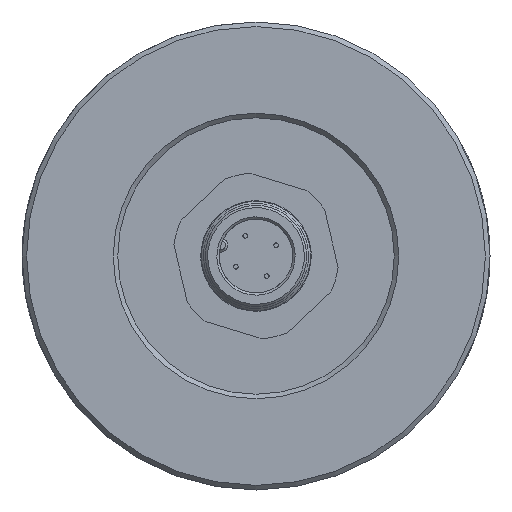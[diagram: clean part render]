
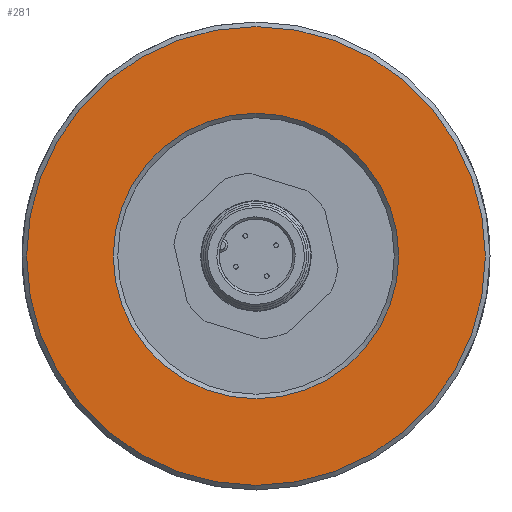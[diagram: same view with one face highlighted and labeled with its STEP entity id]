
A CAD part, left-side view. The second image highlights one B-rep face of the part: STEP entity #281.
In plain terms, the highlighted planar face has unit normal (-1, 0, 0).
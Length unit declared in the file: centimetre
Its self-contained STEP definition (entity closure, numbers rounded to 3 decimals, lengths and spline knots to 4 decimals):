
#190=CARTESIAN_POINT('',(-5.08,0.,1.55));
#191=VERTEX_POINT('',#190);
#200=CARTESIAN_POINT('',(-5.08,0.,0.));
#201=DIRECTION('',(-1.,-0.,-0.));
#202=DIRECTION('',(0.,0.,-1.));
#203=AXIS2_PLACEMENT_3D('',#200,#201,#202);
#204=CIRCLE('',#203,1.55);
#205=EDGE_CURVE('',#191,#191,#204,.T.);
#262=CARTESIAN_POINT('',(-5.08,0.,0.));
#263=DIRECTION('',(1.,0.,0.));
#264=DIRECTION('',(0.,0.,-1.));
#265=AXIS2_PLACEMENT_3D('',#262,#263,#264);
#266=PLANE('',#265);
#267=CARTESIAN_POINT('',(-5.08,0.,-2.49));
#268=VERTEX_POINT('',#267);
#269=CARTESIAN_POINT('',(-5.08,0.,0.));
#270=DIRECTION('',(1.,0.,-0.));
#271=DIRECTION('',(0.,0.,1.));
#272=AXIS2_PLACEMENT_3D('',#269,#270,#271);
#273=CIRCLE('',#272,2.49);
#274=EDGE_CURVE('',#268,#268,#273,.T.);
#275=ORIENTED_EDGE('',*,*,#274,.F.);
#276=EDGE_LOOP('',(#275));
#277=FACE_BOUND('',#276,.T.);
#278=ORIENTED_EDGE('',*,*,#205,.F.);
#279=EDGE_LOOP('',(#278));
#280=FACE_BOUND('',#279,.T.);
#281=ADVANCED_FACE('',(#277,#280),#266,.F.);
